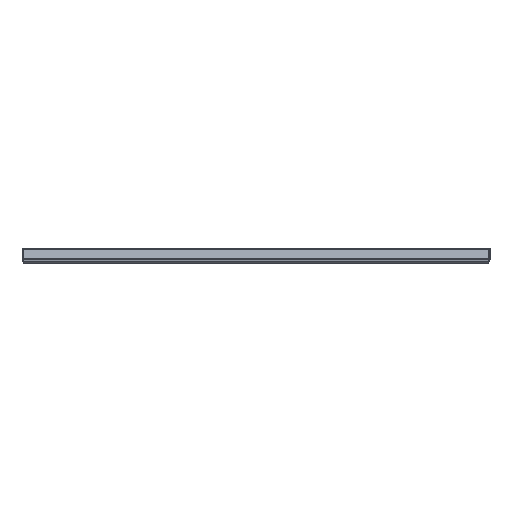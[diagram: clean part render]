
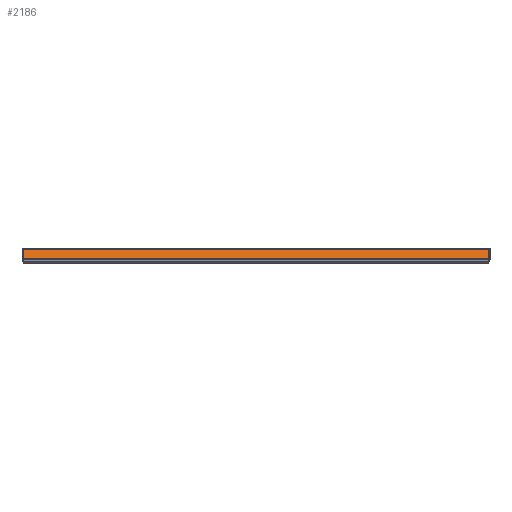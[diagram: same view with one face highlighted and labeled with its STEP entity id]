
A CAD part, left-side view. The second image highlights one B-rep face of the part: STEP entity #2186.
In plain terms, the highlighted planar face has unit normal (-0.966, 0, 0.259).
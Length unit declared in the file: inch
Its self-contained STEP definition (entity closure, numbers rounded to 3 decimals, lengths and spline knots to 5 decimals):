
#427 = DIRECTION ( 'NONE',  ( 0., -1., 0. ) ) ;
#439 = CARTESIAN_POINT ( 'NONE',  ( -25.74118, 12.73601, 0.26058 ) ) ;
#440 = CARTESIAN_POINT ( 'NONE',  ( -25.811, 12.67801, 0. ) ) ;
#441 = DIRECTION ( 'NONE',  ( -0.259, 0., -0.966 ) ) ;
#665 = ORIENTED_EDGE ( 'NONE', *, *, #2765, .F. ) ;
#668 = ORIENTED_EDGE ( 'NONE', *, *, #2731, .T. ) ;
#670 = ORIENTED_EDGE ( 'NONE', *, *, #2669, .T. ) ;
#673 = ORIENTED_EDGE ( 'NONE', *, *, #2671, .T. ) ;
#871 = CARTESIAN_POINT ( 'NONE',  ( -25.811, 12.73601, 0. ) ) ;
#874 = DIRECTION ( 'NONE',  ( 0.966, 0., -0.259 ) ) ;
#878 = DIRECTION ( 'NONE',  ( -0.259, 0., -0.966 ) ) ;
#934 = EDGE_LOOP ( 'NONE', ( #670, #673, #668, #665 ) ) ;
#1010 = LINE ( 'NONE', #1193, #1011 ) ;
#1011 = VECTOR ( 'NONE', #1185, 39.37008 ) ;
#1185 = DIRECTION ( 'NONE',  ( 0., -1., 0. ) ) ;
#1193 = CARTESIAN_POINT ( 'NONE',  ( -25.59343, 12.73601, 0.812 ) ) ;
#1501 = FACE_OUTER_BOUND ( 'NONE', #934, .T. ) ;
#1865 = LINE ( 'NONE', #439, #1874 ) ;
#1870 = LINE ( 'NONE', #440, #1871 ) ;
#1871 = VECTOR ( 'NONE', #441, 39.37008 ) ;
#1874 = VECTOR ( 'NONE', #427, 39.37008 ) ;
#1978 = LINE ( 'NONE', #3636, #1979 ) ;
#1979 = VECTOR ( 'NONE', #3635, 39.37008 ) ;
#2038 = VERTEX_POINT ( 'NONE', #3522 ) ;
#2041 = VERTEX_POINT ( 'NONE', #3546 ) ;
#2046 = VERTEX_POINT ( 'NONE', #3606 ) ;
#2053 = VERTEX_POINT ( 'NONE', #3613 ) ;
#2186 = ADVANCED_FACE ( 'NONE', ( #1501 ), #2546, .F. ) ;
#2546 = PLANE ( 'NONE',  #2874 ) ;
#2669 = EDGE_CURVE ( 'NONE', #2038, #2041, #1870, .T. ) ;
#2671 = EDGE_CURVE ( 'NONE', #2041, #2046, #1865, .T. ) ;
#2731 = EDGE_CURVE ( 'NONE', #2046, #2053, #1978, .T. ) ;
#2765 = EDGE_CURVE ( 'NONE', #2038, #2053, #1010, .T. ) ;
#2874 = AXIS2_PLACEMENT_3D ( 'NONE', #871, #874, #878 ) ;
#3522 = CARTESIAN_POINT ( 'NONE',  ( -25.59343, 12.67801, 0.812 ) ) ;
#3546 = CARTESIAN_POINT ( 'NONE',  ( -25.74118, 12.67801, 0.26058 ) ) ;
#3606 = CARTESIAN_POINT ( 'NONE',  ( -25.74118, -12.67801, 0.26058 ) ) ;
#3613 = CARTESIAN_POINT ( 'NONE',  ( -25.59343, -12.67801, 0.812 ) ) ;
#3635 = DIRECTION ( 'NONE',  ( 0.259, 0., 0.966 ) ) ;
#3636 = CARTESIAN_POINT ( 'NONE',  ( -25.811, -12.67801, 0. ) ) ;
